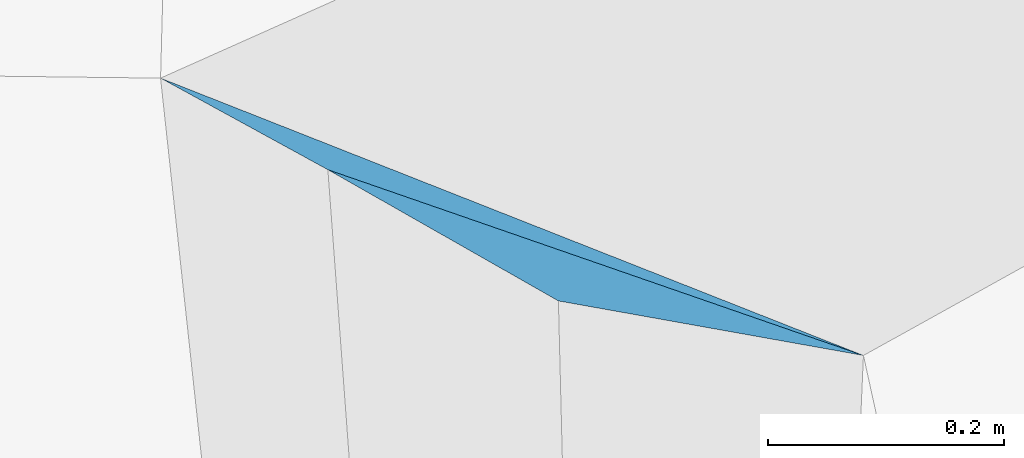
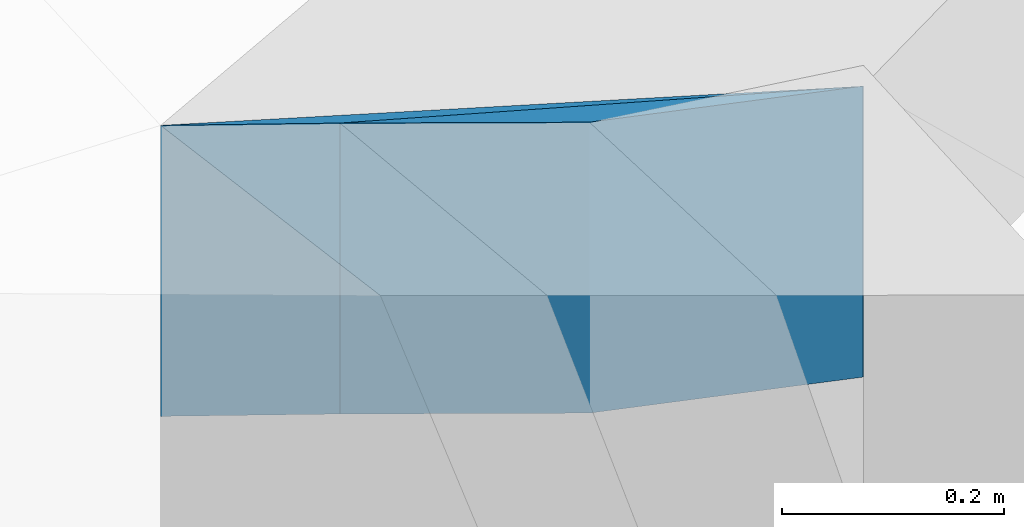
# One storey, part 12 of 23: 2 slabs, 1 element without a shape of its own.
"""IFC2X3 building model written with IfcOpenShell, lengths in metres."""

from ifc_helpers import new_model, entity, si_unit, converted_unit, direction, frame, origin, place, context, subcontext, project, spatial, polyline, outline, extrude, material, layer, layer_set, type_object, element, aggregate, save


model = new_model("IFC2X3")

# Units and contexts
model_context = context("Model", 3, precision=1e-05, world=origin(), true_north=direction((0.7716245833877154, 0.6360782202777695)))
body_context = subcontext(model_context, "Body", "Model", "MODEL_VIEW")
ifc_project = project(units=[si_unit("LENGTHUNIT", "METRE"), converted_unit("PLANEANGLEUNIT", "DEGREE", entity("IfcPlaneAngleMeasure", 0.017453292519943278), si_unit("PLANEANGLEUNIT", "RADIAN"), dimensions=[0, 0, 0, 0, 0, 0, 0]), si_unit("AREAUNIT", "SQUARE_METRE")], contexts=[model_context])

# Site, building, storey
site_placement = place(None, origin())
site = spatial("IfcSite", under=ifc_project, at=site_placement, Name="Default", CompositionType="ELEMENT")
building_placement = place(site_placement, origin())
building = spatial("IfcBuilding", under=site, at=building_placement, Name="<Building Name>", CompositionType="ELEMENT")
storey_placement = place(building_placement, origin())
storey = spatial("IfcBuildingStorey", under=building, at=storey_placement, Name="00 - HAV", CompositionType="ELEMENT", Elevation=0.0)

# Slabs
slab_1_placement = place(storey_placement, frame((224.3175317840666, 93.71309800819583, 32.7900000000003)))
slab_1 = element("IfcSlab", 1, at=slab_1_placement, inside=storey, Name="Floor:771 Grøntarealer", ObjectType="Floor:771 Grøntarealer", PredefinedType="NOTDEFINED")
ifc_material_1 = material(Name="815 - Terrain, Grøntareal")
ifc_layer_1 = layer(ifc_material_1, 0.02)
ifc_material_2 = material(Name="Site - Soil - Jordlag")
ifc_layer_2 = layer(ifc_material_2, 0.30000000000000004)
ifc_layer_set = layer_set([ifc_layer_1, ifc_layer_2], Name="Floor:771 Grøntarealer")
slab_type = type_object("IfcSlabType", Name="Floor:771 Grøntarealer", PredefinedType="NOTDEFINED")
slab_2_placement = place(slab_1_placement, origin())
slab_2 = element("IfcSlab", 2, at=slab_2_placement, type_object=slab_type, material=ifc_layer_set, Name="Floor:771 Grøntarealer", ObjectType="Floor:771 Grøntarealer", PredefinedType="NOTDEFINED", context=body_context, shape_type="SweptSolid", body=[
    extrude(outline(polyline([(-0.30031893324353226, 0.11118970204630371), (-0.15736486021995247, 0.03592926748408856), (0.30031893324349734, -0.11118970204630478), (-0.30031893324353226, 0.11118970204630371)])), frame((10.596242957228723, 31.58557421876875, 4.978615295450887), z_axis=(0.1316831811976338, 0.2405382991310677, 0.9616656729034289), x_axis=(0.991291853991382, -0.031953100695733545, -0.12774764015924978)), (0.12774764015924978, 0.2426513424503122, -0.9616656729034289), 0.3200000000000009),
])
slab_3_placement = place(slab_1_placement, origin())
slab_3 = element("IfcSlab", 3, at=slab_3_placement, type_object=slab_type, material=ifc_layer_set, Name="Floor:771 Grøntarealer", ObjectType="Floor:771 Grøntarealer", PredefinedType="NOTDEFINED", context=body_context, shape_type="SweptSolid", body=[
    extrude(outline(polyline([(-0.22862352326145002, 0.07423541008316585), (-0.031789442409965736, -0.03419126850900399), (0.22862352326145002, -0.07423541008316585), (-0.22862352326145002, 0.07423541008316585)])), frame((10.667097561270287, 31.546784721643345, 4.978615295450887), z_axis=(0.12434772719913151, 0.2184870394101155, 0.9678848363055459), x_axis=(0.9922387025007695, -0.02738087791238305, -0.12129569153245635)), (0.12129569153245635, 0.22019604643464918, -0.9678848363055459), 0.3200000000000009),
])
aggregate(slab_1, [slab_2, slab_3])

save(model, "model.ifc")
